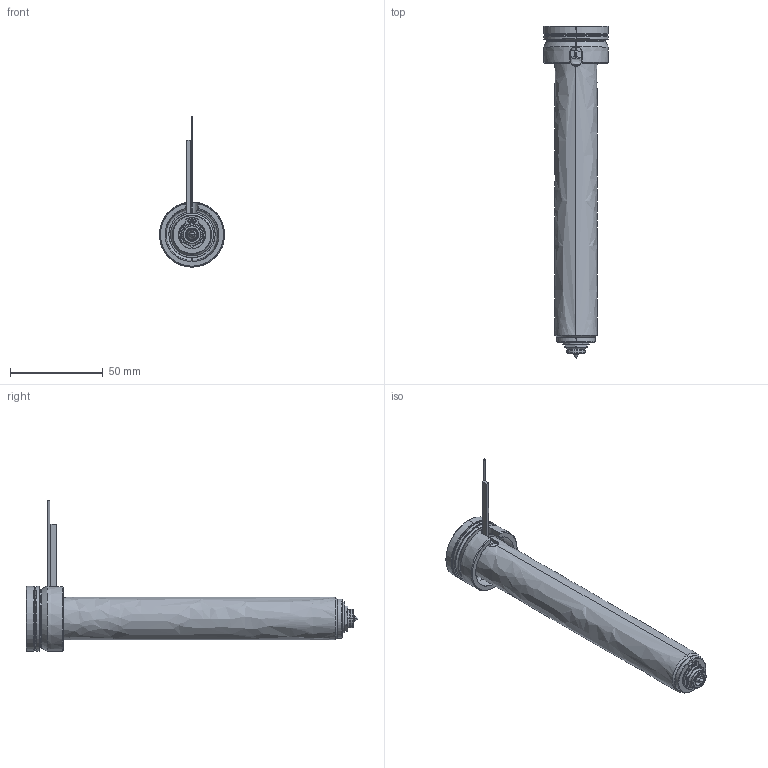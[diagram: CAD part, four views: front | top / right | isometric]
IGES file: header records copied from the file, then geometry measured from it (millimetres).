
Start section: SolidWorks IGES file using analytic representation for surfaces
Global section: file name: C:\Documents and Settings\ws-20\Desktop\TEM\UGEP3054-S-A-1 [Øf-0.50 ØC-6.0].IGS; native system: SolidWorks 2012; preprocessor: SolidWorks 2012; author: ws-20; date: 120402.112556; units: millimetre
Bounding box: 35 x 178.8 x 80.9 mm (x, y, z)
Surface area: 26135.8 mm2 (no closed solid volume)
Topology: 0 solids, 0 shells, 136 faces, 2048 edges, 2048 vertices
Faces by surface type: revolution 85, bspline 51
